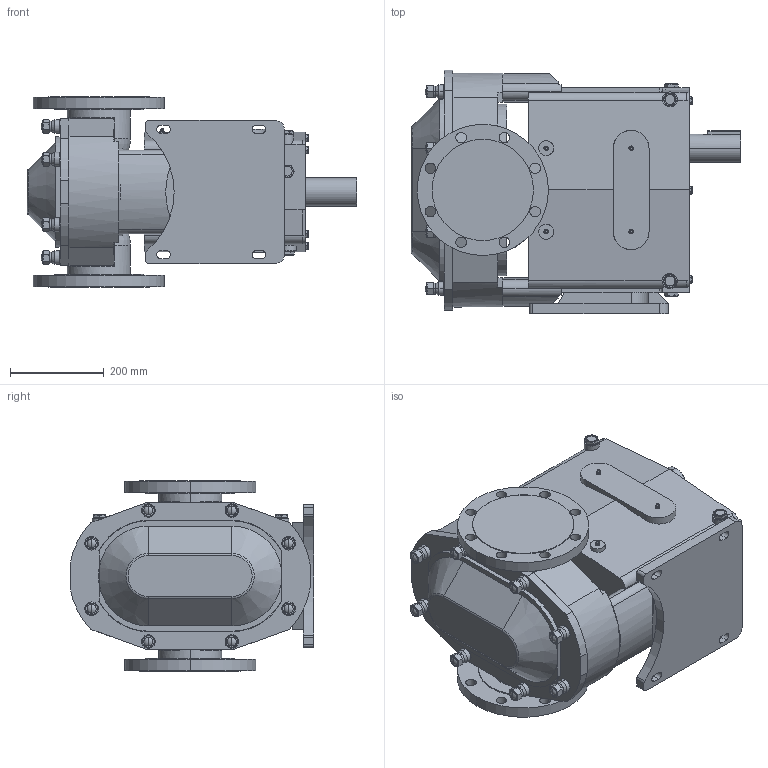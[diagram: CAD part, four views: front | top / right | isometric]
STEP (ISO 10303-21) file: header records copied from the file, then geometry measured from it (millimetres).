
FILE_DESCRIPTION (( 'STEP AP203' ), '1' );
FILE_NAME ('Joined_320_U2_Upper Shaft.STEP', '2008-03-25T15:30:24', ( ' ' ), ( ' ' ), 'SwSTEP 2.0', 'SolidWorks 2006104', '' );
FILE_SCHEMA (( 'CONFIG_CONTROL_DESIGN' ));
Products named in the file (1): Joined_320_U2_Upper Shaft
Bounding box: 701.88 x 519.02 x 406.4 mm (x, y, z)
Volume: 63754694.6 mm3; surface area: 1733462.4 mm2
Topology: 1 solids, 31 shells, 1517 faces, 3714 edges, 2362 vertices
Faces by surface type: plane 782, cylinder 351, cone 231, bspline 107, torus 30, sphere 16
Entity records: 50199 total; most frequent: CARTESIAN_POINT 15170, ORIENTED_EDGE 7308, DIRECTION 6897, EDGE_CURVE 3654, VERTEX_POINT 2362, AXIS2_PLACEMENT_3D 2337, VECTOR 2223, LINE 2223
